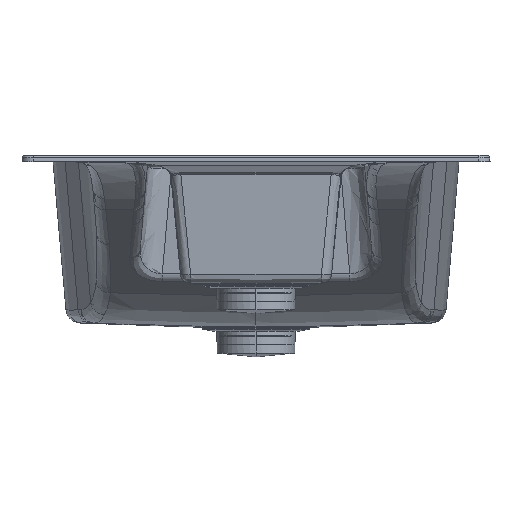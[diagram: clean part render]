
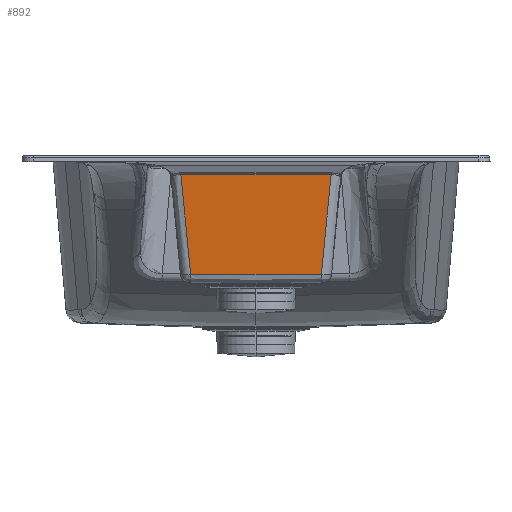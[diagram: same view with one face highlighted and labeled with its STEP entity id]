
A CAD part, left-side view. The second image highlights one B-rep face of the part: STEP entity #892.
In plain terms, the highlighted planar face has unit normal (-0.997, 0, -0.079).
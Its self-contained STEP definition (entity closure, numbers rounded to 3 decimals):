
#473=PLANE('',#13820);
#892=ADVANCED_FACE('',(#1665),#473,.T.);
#1665=FACE_OUTER_BOUND('',#2442,.T.);
#2442=EDGE_LOOP('',(#4137,#4138,#4139,#4140));
#4137=ORIENTED_EDGE('',*,*,#7899,.F.);
#4138=ORIENTED_EDGE('',*,*,#7900,.F.);
#4139=ORIENTED_EDGE('',*,*,#7901,.F.);
#4140=ORIENTED_EDGE('',*,*,#7898,.F.);
#7898=EDGE_CURVE('',#12100,#12098,#10444,.T.);
#7899=EDGE_CURVE('',#12102,#12100,#10445,.T.);
#7900=EDGE_CURVE('',#12096,#12102,#10446,.T.);
#7901=EDGE_CURVE('',#12098,#12096,#10447,.T.);
#10444=B_SPLINE_CURVE_WITH_KNOTS('',3,(#33943,#33944,#33945,#33946,#33947,
#33948,#33949,#33950,#33951,#33952,#33953,#33954,#33955,#33956,#33957,#33958,
#33959,#33960,#33961,#33962,#33963,#33964,#33965,#33966,#33967,#33968),
 .UNSPECIFIED.,.F.,.F.,(4,1,1,1,1,1,1,1,1,1,1,1,1,1,1,1,1,1,1,1,1,1,1,4),
(0.,0.043,0.087,0.13,0.174,0.217,
0.261,0.304,0.348,0.391,0.435,
0.478,0.522,0.565,0.609,0.652,
0.696,0.739,0.783,0.826,0.87,
0.913,0.957,1.),.UNSPECIFIED.);
#10445=B_SPLINE_CURVE_WITH_KNOTS('',3,(#33969,#33970,#33971,#33972,#33973),
 .UNSPECIFIED.,.F.,.F.,(4,1,4),(3.,3.5,4.),.UNSPECIFIED.);
#10446=B_SPLINE_CURVE_WITH_KNOTS('',1,(#33974,#33975),.UNSPECIFIED.,.F.,
 .F.,(2,2),(2.,3.),.UNSPECIFIED.);
#10447=B_SPLINE_CURVE_WITH_KNOTS('',3,(#33976,#33977,#33978,#33979,#33980),
 .UNSPECIFIED.,.F.,.F.,(4,1,4),(1.,1.5,2.),.UNSPECIFIED.);
#12096=VERTEX_POINT('',#30542);
#12098=VERTEX_POINT('',#30544);
#12100=VERTEX_POINT('',#30546);
#12102=VERTEX_POINT('',#30548);
#13820=AXIS2_PLACEMENT_3D('',#21329,#13884,$);
#13884=DIRECTION('',(-0.997,0.,-0.078));
#21329=CARTESIAN_POINT('',(-124.544,-147.501,-18.82));
#30542=CARTESIAN_POINT('',(-124.375,16.29,-20.97));
#30544=CARTESIAN_POINT('',(-115.997,5.788,-127.419));
#30546=CARTESIAN_POINT('',(-115.997,-133.788,-127.419));
#30548=CARTESIAN_POINT('',(-124.375,-144.29,-20.97));
#33943=CARTESIAN_POINT('',(-115.997,-133.788,-127.419));
#33944=CARTESIAN_POINT('',(-115.993,-131.363,-127.481));
#33945=CARTESIAN_POINT('',(-115.983,-126.631,-127.598));
#33946=CARTESIAN_POINT('',(-115.971,-119.919,-127.754));
#33947=CARTESIAN_POINT('',(-115.96,-113.482,-127.894));
#33948=CARTESIAN_POINT('',(-115.95,-107.271,-128.018));
#33949=CARTESIAN_POINT('',(-115.942,-101.249,-128.128));
#33950=CARTESIAN_POINT('',(-115.934,-95.369,-128.222));
#33951=CARTESIAN_POINT('',(-115.928,-89.591,-128.302));
#33952=CARTESIAN_POINT('',(-115.923,-83.871,-128.367));
#33953=CARTESIAN_POINT('',(-115.919,-78.181,-128.416));
#33954=CARTESIAN_POINT('',(-115.916,-72.507,-128.45));
#33955=CARTESIAN_POINT('',(-115.915,-66.834,-128.467));
#33956=CARTESIAN_POINT('',(-115.915,-61.165,-128.467));
#33957=CARTESIAN_POINT('',(-115.916,-55.492,-128.45));
#33958=CARTESIAN_POINT('',(-115.919,-49.818,-128.416));
#33959=CARTESIAN_POINT('',(-115.923,-44.128,-128.367));
#33960=CARTESIAN_POINT('',(-115.928,-38.408,-128.302));
#33961=CARTESIAN_POINT('',(-115.934,-32.631,-128.222));
#33962=CARTESIAN_POINT('',(-115.942,-26.75,-128.128));
#33963=CARTESIAN_POINT('',(-115.95,-20.727,-128.018));
#33964=CARTESIAN_POINT('',(-115.96,-14.517,-127.894));
#33965=CARTESIAN_POINT('',(-115.971,-8.081,-127.754));
#33966=CARTESIAN_POINT('',(-115.983,-1.369,-127.598));
#33967=CARTESIAN_POINT('',(-115.993,3.363,-127.481));
#33968=CARTESIAN_POINT('',(-115.997,5.788,-127.419));
#33969=CARTESIAN_POINT('',(-124.375,-144.29,-20.97));
#33970=CARTESIAN_POINT('',(-122.993,-142.543,-38.537));
#33971=CARTESIAN_POINT('',(-120.214,-139.045,-73.846));
#33972=CARTESIAN_POINT('',(-117.407,-135.541,-109.504));
#33973=CARTESIAN_POINT('',(-115.997,-133.788,-127.419));
#33974=CARTESIAN_POINT('',(-124.375,16.29,-20.97));
#33975=CARTESIAN_POINT('',(-124.375,-144.29,-20.97));
#33976=CARTESIAN_POINT('',(-115.997,5.788,-127.419));
#33977=CARTESIAN_POINT('',(-117.407,7.541,-109.504));
#33978=CARTESIAN_POINT('',(-120.214,11.045,-73.847));
#33979=CARTESIAN_POINT('',(-122.993,14.543,-38.538));
#33980=CARTESIAN_POINT('',(-124.375,16.29,-20.97));
